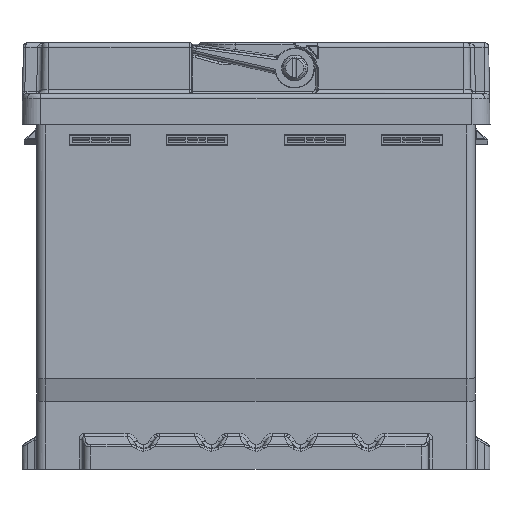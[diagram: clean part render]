
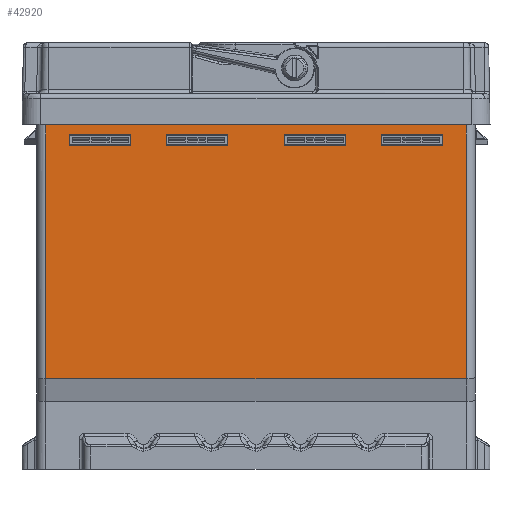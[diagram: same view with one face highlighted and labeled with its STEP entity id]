
A CAD part, left-side view. The second image highlights one B-rep face of the part: STEP entity #42920.
In plain terms, the highlighted planar face has unit normal (-1, 0, 0).
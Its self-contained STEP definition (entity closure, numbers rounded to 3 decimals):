
#35695=CARTESIAN_POINT('Vertex',(-83.05,92.8,162.5)) ;
#35698=CARTESIAN_POINT('Line Origine',(-83.05,0.,162.5)) ;
#35702=CARTESIAN_POINT('Vertex',(-83.05,-92.8,162.5)) ;
#42745=CARTESIAN_POINT('Vertex',(-83.05,92.8,41.5)) ;
#42748=CARTESIAN_POINT('Line Origine',(-83.05,92.8,167.5)) ;
#42761=CARTESIAN_POINT('Axis2P3D Location',(-83.05,-96.8,41.5)) ;
#42766=CARTESIAN_POINT('Line Origine',(-83.05,0.,41.5)) ;
#42770=CARTESIAN_POINT('Vertex',(-83.05,-92.8,41.5)) ;
#42773=CARTESIAN_POINT('Line Origine',(-83.05,-92.8,102.)) ;
#42784=CARTESIAN_POINT('Line Origine',(-83.05,26.25,144.5)) ;
#42788=CARTESIAN_POINT('Vertex',(-83.05,39.75,144.5)) ;
#42790=CARTESIAN_POINT('Vertex',(-83.05,12.75,144.5)) ;
#42793=CARTESIAN_POINT('Line Origine',(-83.05,39.75,147.022)) ;
#42797=CARTESIAN_POINT('Vertex',(-83.05,39.75,149.544)) ;
#42800=CARTESIAN_POINT('Line Origine',(-83.05,26.25,149.544)) ;
#42804=CARTESIAN_POINT('Vertex',(-83.05,12.75,149.544)) ;
#42807=CARTESIAN_POINT('Line Origine',(-83.05,12.75,147.022)) ;
#42818=CARTESIAN_POINT('Line Origine',(-83.05,68.75,144.5)) ;
#42822=CARTESIAN_POINT('Vertex',(-83.05,82.25,144.5)) ;
#42824=CARTESIAN_POINT('Vertex',(-83.05,55.25,144.5)) ;
#42827=CARTESIAN_POINT('Line Origine',(-83.05,82.25,147.022)) ;
#42831=CARTESIAN_POINT('Vertex',(-83.05,82.25,149.544)) ;
#42834=CARTESIAN_POINT('Line Origine',(-83.05,68.75,149.544)) ;
#42838=CARTESIAN_POINT('Vertex',(-83.05,55.25,149.544)) ;
#42841=CARTESIAN_POINT('Line Origine',(-83.05,55.25,147.022)) ;
#42852=CARTESIAN_POINT('Line Origine',(-83.05,-26.25,144.5)) ;
#42856=CARTESIAN_POINT('Vertex',(-83.05,-39.75,144.5)) ;
#42858=CARTESIAN_POINT('Vertex',(-83.05,-12.75,144.5)) ;
#42861=CARTESIAN_POINT('Line Origine',(-83.05,-12.75,147.022)) ;
#42865=CARTESIAN_POINT('Vertex',(-83.05,-12.75,149.544)) ;
#42868=CARTESIAN_POINT('Line Origine',(-83.05,-26.25,149.544)) ;
#42872=CARTESIAN_POINT('Vertex',(-83.05,-39.75,149.544)) ;
#42875=CARTESIAN_POINT('Line Origine',(-83.05,-39.75,147.022)) ;
#42886=CARTESIAN_POINT('Line Origine',(-83.05,-68.75,144.5)) ;
#42890=CARTESIAN_POINT('Vertex',(-83.05,-82.25,144.5)) ;
#42892=CARTESIAN_POINT('Vertex',(-83.05,-55.25,144.5)) ;
#42895=CARTESIAN_POINT('Line Origine',(-83.05,-55.25,147.022)) ;
#42899=CARTESIAN_POINT('Vertex',(-83.05,-55.25,149.544)) ;
#42902=CARTESIAN_POINT('Line Origine',(-83.05,-68.75,149.544)) ;
#42906=CARTESIAN_POINT('Vertex',(-83.05,-82.25,149.544)) ;
#42909=CARTESIAN_POINT('Line Origine',(-83.05,-82.25,147.022)) ;
#35699=DIRECTION('Vector Direction',(0.,1.,0.)) ;
#42749=DIRECTION('Vector Direction',(0.,0.,1.)) ;
#42762=DIRECTION('Axis2P3D Direction',(1.,0.,0.)) ;
#42763=DIRECTION('Axis2P3D XDirection',(0.,1.,0.)) ;
#42767=DIRECTION('Vector Direction',(0.,1.,0.)) ;
#42774=DIRECTION('Vector Direction',(0.,0.,1.)) ;
#42785=DIRECTION('Vector Direction',(0.,-1.,0.)) ;
#42794=DIRECTION('Vector Direction',(0.,0.,-1.)) ;
#42801=DIRECTION('Vector Direction',(0.,1.,0.)) ;
#42808=DIRECTION('Vector Direction',(0.,0.,1.)) ;
#42819=DIRECTION('Vector Direction',(0.,-1.,0.)) ;
#42828=DIRECTION('Vector Direction',(0.,0.,-1.)) ;
#42835=DIRECTION('Vector Direction',(0.,1.,0.)) ;
#42842=DIRECTION('Vector Direction',(0.,0.,1.)) ;
#42853=DIRECTION('Vector Direction',(0.,1.,0.)) ;
#42862=DIRECTION('Vector Direction',(0.,0.,1.)) ;
#42869=DIRECTION('Vector Direction',(0.,-1.,0.)) ;
#42876=DIRECTION('Vector Direction',(0.,0.,-1.)) ;
#42887=DIRECTION('Vector Direction',(0.,1.,0.)) ;
#42896=DIRECTION('Vector Direction',(0.,0.,1.)) ;
#42903=DIRECTION('Vector Direction',(0.,-1.,0.)) ;
#42910=DIRECTION('Vector Direction',(0.,0.,-1.)) ;
#42764=AXIS2_PLACEMENT_3D('Plane Axis2P3D',#42761,#42762,#42763) ;
#42779=ORIENTED_EDGE('',*,*,#42752,.F.) ;
#42780=ORIENTED_EDGE('',*,*,#42772,.F.) ;
#42781=ORIENTED_EDGE('',*,*,#42777,.T.) ;
#42782=ORIENTED_EDGE('',*,*,#35704,.T.) ;
#42813=ORIENTED_EDGE('',*,*,#42792,.F.) ;
#42814=ORIENTED_EDGE('',*,*,#42799,.F.) ;
#42815=ORIENTED_EDGE('',*,*,#42806,.F.) ;
#42816=ORIENTED_EDGE('',*,*,#42811,.F.) ;
#42847=ORIENTED_EDGE('',*,*,#42826,.F.) ;
#42848=ORIENTED_EDGE('',*,*,#42833,.F.) ;
#42849=ORIENTED_EDGE('',*,*,#42840,.F.) ;
#42850=ORIENTED_EDGE('',*,*,#42845,.F.) ;
#42881=ORIENTED_EDGE('',*,*,#42860,.T.) ;
#42882=ORIENTED_EDGE('',*,*,#42867,.T.) ;
#42883=ORIENTED_EDGE('',*,*,#42874,.T.) ;
#42884=ORIENTED_EDGE('',*,*,#42879,.T.) ;
#42915=ORIENTED_EDGE('',*,*,#42894,.T.) ;
#42916=ORIENTED_EDGE('',*,*,#42901,.T.) ;
#42917=ORIENTED_EDGE('',*,*,#42908,.T.) ;
#42918=ORIENTED_EDGE('',*,*,#42913,.T.) ;
#42817=FACE_BOUND('',#42812,.T.) ;
#42851=FACE_BOUND('',#42846,.T.) ;
#42885=FACE_BOUND('',#42880,.T.) ;
#42919=FACE_BOUND('',#42914,.T.) ;
#35700=VECTOR('Line Direction',#35699,1.) ;
#42750=VECTOR('Line Direction',#42749,1.) ;
#42768=VECTOR('Line Direction',#42767,1.) ;
#42775=VECTOR('Line Direction',#42774,1.) ;
#42786=VECTOR('Line Direction',#42785,1.) ;
#42795=VECTOR('Line Direction',#42794,1.) ;
#42802=VECTOR('Line Direction',#42801,1.) ;
#42809=VECTOR('Line Direction',#42808,1.) ;
#42820=VECTOR('Line Direction',#42819,1.) ;
#42829=VECTOR('Line Direction',#42828,1.) ;
#42836=VECTOR('Line Direction',#42835,1.) ;
#42843=VECTOR('Line Direction',#42842,1.) ;
#42854=VECTOR('Line Direction',#42853,1.) ;
#42863=VECTOR('Line Direction',#42862,1.) ;
#42870=VECTOR('Line Direction',#42869,1.) ;
#42877=VECTOR('Line Direction',#42876,1.) ;
#42888=VECTOR('Line Direction',#42887,1.) ;
#42897=VECTOR('Line Direction',#42896,1.) ;
#42904=VECTOR('Line Direction',#42903,1.) ;
#42911=VECTOR('Line Direction',#42910,1.) ;
#42920=ADVANCED_FACE('BATTERY_DIMENSION_SHEET_LN1_AGM_HANDLE',(#42783,#42817,#42851,#42885,#42919),#42765,.F.) ;
#35704=EDGE_CURVE('',#35703,#35696,#35701,.T.) ;
#42752=EDGE_CURVE('',#42746,#35696,#42751,.T.) ;
#42772=EDGE_CURVE('',#42771,#42746,#42769,.T.) ;
#42777=EDGE_CURVE('',#42771,#35703,#42776,.T.) ;
#42792=EDGE_CURVE('',#42789,#42791,#42787,.T.) ;
#42799=EDGE_CURVE('',#42798,#42789,#42796,.T.) ;
#42806=EDGE_CURVE('',#42805,#42798,#42803,.T.) ;
#42811=EDGE_CURVE('',#42791,#42805,#42810,.T.) ;
#42826=EDGE_CURVE('',#42823,#42825,#42821,.T.) ;
#42833=EDGE_CURVE('',#42832,#42823,#42830,.T.) ;
#42840=EDGE_CURVE('',#42839,#42832,#42837,.T.) ;
#42845=EDGE_CURVE('',#42825,#42839,#42844,.T.) ;
#42860=EDGE_CURVE('',#42857,#42859,#42855,.T.) ;
#42867=EDGE_CURVE('',#42859,#42866,#42864,.T.) ;
#42874=EDGE_CURVE('',#42866,#42873,#42871,.T.) ;
#42879=EDGE_CURVE('',#42873,#42857,#42878,.T.) ;
#42894=EDGE_CURVE('',#42891,#42893,#42889,.T.) ;
#42901=EDGE_CURVE('',#42893,#42900,#42898,.T.) ;
#42908=EDGE_CURVE('',#42900,#42907,#42905,.T.) ;
#42913=EDGE_CURVE('',#42907,#42891,#42912,.T.) ;
#42778=EDGE_LOOP('',(#42779,#42780,#42781,#42782)) ;
#42812=EDGE_LOOP('',(#42813,#42814,#42815,#42816)) ;
#42846=EDGE_LOOP('',(#42847,#42848,#42849,#42850)) ;
#42880=EDGE_LOOP('',(#42881,#42882,#42883,#42884)) ;
#42914=EDGE_LOOP('',(#42915,#42916,#42917,#42918)) ;
#42783=FACE_OUTER_BOUND('',#42778,.T.) ;
#35701=LINE('Line',#35698,#35700) ;
#42751=LINE('Line',#42748,#42750) ;
#42769=LINE('Line',#42766,#42768) ;
#42776=LINE('Line',#42773,#42775) ;
#42787=LINE('Line',#42784,#42786) ;
#42796=LINE('Line',#42793,#42795) ;
#42803=LINE('Line',#42800,#42802) ;
#42810=LINE('Line',#42807,#42809) ;
#42821=LINE('Line',#42818,#42820) ;
#42830=LINE('Line',#42827,#42829) ;
#42837=LINE('Line',#42834,#42836) ;
#42844=LINE('Line',#42841,#42843) ;
#42855=LINE('Line',#42852,#42854) ;
#42864=LINE('Line',#42861,#42863) ;
#42871=LINE('Line',#42868,#42870) ;
#42878=LINE('Line',#42875,#42877) ;
#42889=LINE('Line',#42886,#42888) ;
#42898=LINE('Line',#42895,#42897) ;
#42905=LINE('Line',#42902,#42904) ;
#42912=LINE('Line',#42909,#42911) ;
#42765=PLANE('Plane',#42764) ;
#35696=VERTEX_POINT('',#35695) ;
#35703=VERTEX_POINT('',#35702) ;
#42746=VERTEX_POINT('',#42745) ;
#42771=VERTEX_POINT('',#42770) ;
#42789=VERTEX_POINT('',#42788) ;
#42791=VERTEX_POINT('',#42790) ;
#42798=VERTEX_POINT('',#42797) ;
#42805=VERTEX_POINT('',#42804) ;
#42823=VERTEX_POINT('',#42822) ;
#42825=VERTEX_POINT('',#42824) ;
#42832=VERTEX_POINT('',#42831) ;
#42839=VERTEX_POINT('',#42838) ;
#42857=VERTEX_POINT('',#42856) ;
#42859=VERTEX_POINT('',#42858) ;
#42866=VERTEX_POINT('',#42865) ;
#42873=VERTEX_POINT('',#42872) ;
#42891=VERTEX_POINT('',#42890) ;
#42893=VERTEX_POINT('',#42892) ;
#42900=VERTEX_POINT('',#42899) ;
#42907=VERTEX_POINT('',#42906) ;
